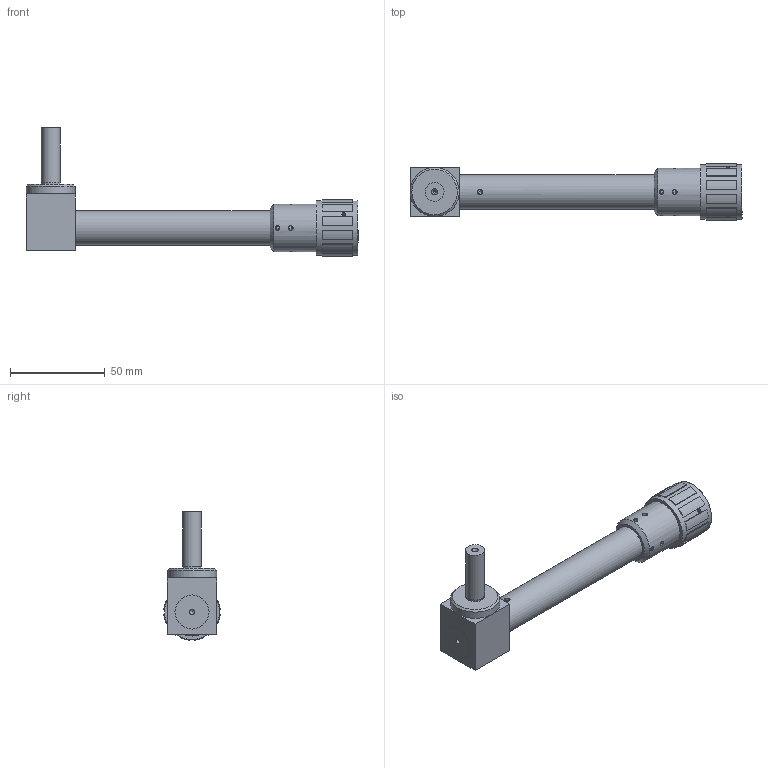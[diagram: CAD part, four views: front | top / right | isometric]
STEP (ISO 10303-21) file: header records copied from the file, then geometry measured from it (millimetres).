
FILE_DESCRIPTION(/* description */ ('Microscope coudé'),/* implementation_level */ '2;1');
FILE_NAME(/* name */ 'S:\Bureau-Technique\Microscope\MA 121C-010.stp',/* time_stamp */ '2019-03-20T15:29:03+01:00',/* author */ ('chu'),/* organization */ ('Marcel Aubert'),/* preprocessor_version */ 'ST-DEVELOPER v17.2',/* originating_system */ 'Autodesk Inventor 2019',/* authorisation */ '');
FILE_SCHEMA (('AUTOMOTIVE_DESIGN { 1 0 10303 214 3 1 1 }'));
Length unit declared in the file: millimetre
Products named in the file (27): MA 121C-010; 65-080; 31-046-04; MA 50-05; 63-123-01; OC-002; OC-002-100; OC-002-101; LE-015-13; LE-015-10; VIS-059; 85-307; RTC-005; 63-130; R ...; 63-129; ISO 7434 - M2.5x5; ISO 4026 - M3 x 3; 85-104; VR-003-58; PR-002-02; 60-079; LE-031-09; ISO 4026 - M3x3; ISO 4026 - M3x4; ISO 4766-M2.5x2.5; 75-005-01
Assembly tree (34 placements, depth 4):
  MA 121C-010
    65-080
    31-046-04
    MA 50-05
      63-123-01
      OC-002
        OC-002-100
        OC-002-101
        LE-015-13
        LE-015-10
      VIS-059
      85-307
      RTC-005
        63-130
        R ...
        63-129
      ISO 7434 - M2.5x5  x3
      ISO 4026 - M3 x 3  x6
    85-104
    VR-003-58
    PR-002-02
    60-079
    LE-031-09
    ISO 4026 - M3x3  x2
    ISO 4026 - M3x4
    ISO 4766-M2.5x2.5
    75-005-01
Bounding box: 175.51 x 29.88 x 67.94 mm (x, y, z)
Volume: 52793 mm3; surface area: 42624.3 mm2
Topology: 31 solids, 31 shells, 437 faces, 1106 edges, 780 vertices
Faces by surface type: plane 252, cylinder 116, cone 60, bspline 4, torus 3, sphere 2
Full cylindrical faces by diameter (mm): 1.6 x2, 1.75 x1, 2.013 x4, 2.459 x11, 2.5 x4, 3 x10, 8 x1, 9 x2, 9.7 x1, 10 x4, 11 x2, 11.5 x1, 12 x2, 12.5 x1, 13 x3, 14 x9, 15 x2, 15.3 x3, 16 x1, 16.46 x1, 16.5 x1, 17 x5, 18 x8, 18.5 x1, 19 x1, 19.188 x1, 19.5 x1, 20 x4, 21 x2, 22 x3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
Entity records: 13006 total; most frequent: CARTESIAN_POINT 3074, DIRECTION 2009, ORIENTED_EDGE 1736, EDGE_CURVE 868, AXIS2_PLACEMENT_3D 828, VERTEX_POINT 626, EDGE_LOOP 450, CIRCLE 414
